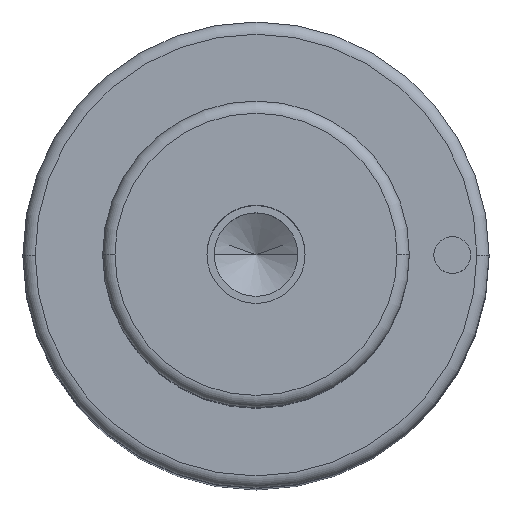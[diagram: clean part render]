
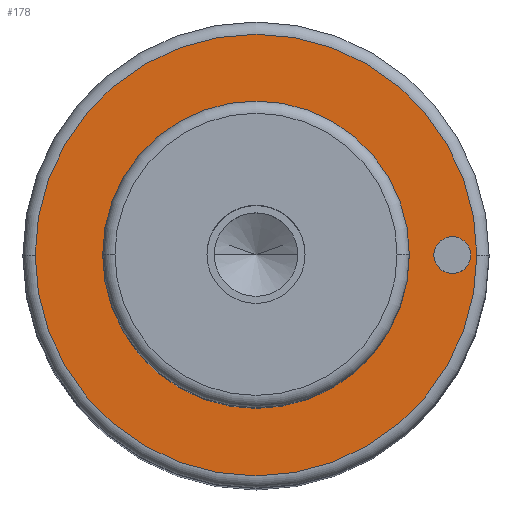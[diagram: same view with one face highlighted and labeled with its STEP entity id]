
A CAD part, top view. The second image highlights one B-rep face of the part: STEP entity #178.
In plain terms, the highlighted planar face has unit normal (0, 0, 1).
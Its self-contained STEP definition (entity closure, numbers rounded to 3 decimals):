
#105=PLANE('',#866);
#115=FACE_BOUND('',#283,.T.);
#116=FACE_BOUND('',#284,.T.);
#117=FACE_BOUND('',#285,.T.);
#178=ADVANCED_FACE('',(#115,#116,#117),#105,.T.);
#283=EDGE_LOOP('',(#473,#474));
#284=EDGE_LOOP('',(#475,#476));
#285=EDGE_LOOP('',(#477,#478));
#333=CIRCLE('',#834,12.5);
#334=CIRCLE('',#836,12.5);
#338=CIRCLE('',#841,18.);
#339=CIRCLE('',#843,18.);
#351=CIRCLE('',#864,1.5);
#352=CIRCLE('',#865,1.5);
#473=ORIENTED_EDGE('',*,*,#666,.F.);
#474=ORIENTED_EDGE('',*,*,#667,.F.);
#475=ORIENTED_EDGE('',*,*,#685,.F.);
#476=ORIENTED_EDGE('',*,*,#686,.F.);
#477=ORIENTED_EDGE('',*,*,#662,.T.);
#478=ORIENTED_EDGE('',*,*,#660,.T.);
#590=VERTEX_POINT('',#1233);
#591=VERTEX_POINT('',#1235);
#592=VERTEX_POINT('',#1241);
#595=VERTEX_POINT('',#1246);
#604=VERTEX_POINT('',#1285);
#605=VERTEX_POINT('',#1286);
#660=EDGE_CURVE('',#591,#590,#333,.T.);
#662=EDGE_CURVE('',#590,#591,#334,.T.);
#666=EDGE_CURVE('',#595,#592,#338,.T.);
#667=EDGE_CURVE('',#592,#595,#339,.T.);
#685=EDGE_CURVE('',#604,#605,#351,.T.);
#686=EDGE_CURVE('',#605,#604,#352,.T.);
#834=AXIS2_PLACEMENT_3D('',#1234,#985,#986);
#836=AXIS2_PLACEMENT_3D('',#1238,#990,#991);
#841=AXIS2_PLACEMENT_3D('',#1247,#1000,#1001);
#843=AXIS2_PLACEMENT_3D('',#1249,#1004,#1005);
#864=AXIS2_PLACEMENT_3D('',#1284,#1052,#1053);
#865=AXIS2_PLACEMENT_3D('',#1287,#1054,#1055);
#866=AXIS2_PLACEMENT_3D('',#1288,#1056,#1057);
#985=DIRECTION('',(0.,0.,-1.));
#986=DIRECTION('',(0.,1.,0.));
#990=DIRECTION('',(0.,0.,-1.));
#991=DIRECTION('',(0.,-1.,0.));
#1000=DIRECTION('',(0.,0.,-1.));
#1001=DIRECTION('',(0.,1.,0.));
#1004=DIRECTION('',(0.,0.,-1.));
#1005=DIRECTION('',(0.,-1.,0.));
#1052=DIRECTION('',(0.,0.,1.));
#1053=DIRECTION('',(0.,1.,0.));
#1054=DIRECTION('',(0.,0.,1.));
#1055=DIRECTION('',(0.,-1.,0.));
#1056=DIRECTION('',(0.,0.,1.));
#1057=DIRECTION('',(0.,-1.,0.));
#1233=CARTESIAN_POINT('',(-12.5,0.,86.));
#1234=CARTESIAN_POINT('',(0.,0.,86.));
#1235=CARTESIAN_POINT('',(12.5,0.,86.));
#1238=CARTESIAN_POINT('',(0.,0.,86.));
#1241=CARTESIAN_POINT('',(-18.,0.,86.));
#1246=CARTESIAN_POINT('',(18.,0.,86.));
#1247=CARTESIAN_POINT('',(0.,0.,86.));
#1249=CARTESIAN_POINT('',(0.,0.,86.));
#1284=CARTESIAN_POINT('',(16.,0.,86.));
#1285=CARTESIAN_POINT('',(14.5,0.,86.));
#1286=CARTESIAN_POINT('',(17.5,0.,86.));
#1287=CARTESIAN_POINT('',(16.,0.,86.));
#1288=CARTESIAN_POINT('',(0.,0.,86.));
